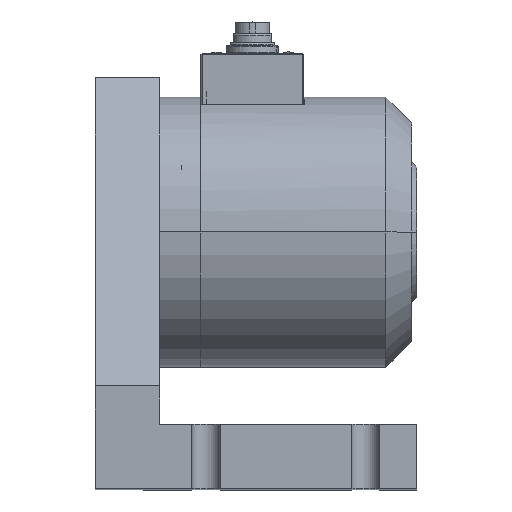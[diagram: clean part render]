
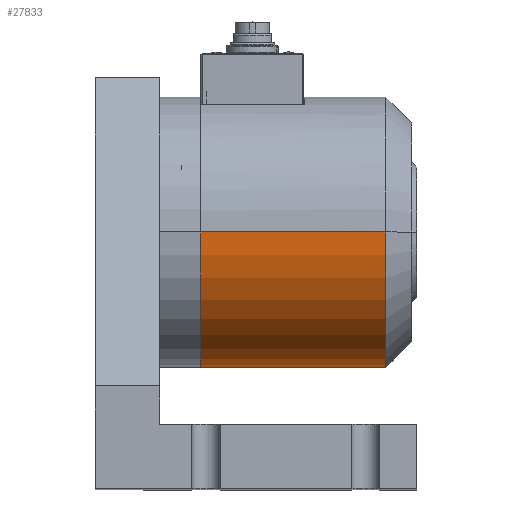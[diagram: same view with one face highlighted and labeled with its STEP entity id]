
A CAD part, top view. The second image highlights one B-rep face of the part: STEP entity #27833.
In plain terms, the highlighted cylindrical face has radius 52.5 mm (diameter 105 mm), a partial arc.
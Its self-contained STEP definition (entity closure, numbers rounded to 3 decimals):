
#976 = FACE_OUTER_BOUND ( 'NONE', #41190, .T. ) ;
#2433 = VERTEX_POINT ( 'NONE', #3382 ) ;
#3382 = CARTESIAN_POINT ( 'NONE',  ( 3.72, 66.739, 52.539 ) ) ;
#5197 = CIRCLE ( 'NONE', #12043, 52.5 ) ;
#5726 = ORIENTED_EDGE ( 'NONE', *, *, #39118, .F. ) ;
#5764 = CARTESIAN_POINT ( 'NONE',  ( 75.72, 66.739, 52.539 ) ) ;
#6685 = CARTESIAN_POINT ( 'NONE',  ( 85.72, 66.739, -52.461 ) ) ;
#8086 = EDGE_CURVE ( 'NONE', #2433, #38323, #18652, .T. ) ;
#12043 = AXIS2_PLACEMENT_3D ( 'NONE', #12473, #28400, #44548 ) ;
#12055 = VERTEX_POINT ( 'NONE', #5764 ) ;
#12473 = CARTESIAN_POINT ( 'NONE',  ( 75.72, 66.739, 0.039 ) ) ;
#12620 = CARTESIAN_POINT ( 'NONE',  ( 85.72, 66.739, 0.039 ) ) ;
#13367 = DIRECTION ( 'NONE',  ( -1., 0., 0. ) ) ;
#13595 = VECTOR ( 'NONE', #22787, 1000. ) ;
#16863 = LINE ( 'NONE', #32726, #32479 ) ;
#17329 = DIRECTION ( 'NONE',  ( 0., 0., -1. ) ) ;
#18652 = CIRCLE ( 'NONE', #36163, 52.5 ) ;
#22787 = DIRECTION ( 'NONE',  ( -1., 0., 0. ) ) ;
#27248 = EDGE_CURVE ( 'NONE', #27604, #12055, #5197, .T. ) ;
#27604 = VERTEX_POINT ( 'NONE', #33424 ) ;
#27833 = ADVANCED_FACE ( 'NONE', ( #976 ), #44691, .T. ) ;
#28400 = DIRECTION ( 'NONE',  ( -1., 0., 0. ) ) ;
#31082 = CARTESIAN_POINT ( 'NONE',  ( 3.72, 66.739, -52.461 ) ) ;
#32479 = VECTOR ( 'NONE', #48909, 1000. ) ;
#32726 = CARTESIAN_POINT ( 'NONE',  ( 85.72, 66.739, 52.539 ) ) ;
#33424 = CARTESIAN_POINT ( 'NONE',  ( 75.72, 66.739, -52.461 ) ) ;
#35531 = ORIENTED_EDGE ( 'NONE', *, *, #41050, .T. ) ;
#36163 = AXIS2_PLACEMENT_3D ( 'NONE', #37127, #37181, #17329 ) ;
#37127 = CARTESIAN_POINT ( 'NONE',  ( 3.72, 66.739, 0.039 ) ) ;
#37181 = DIRECTION ( 'NONE',  ( 1., 0., 0. ) ) ;
#38323 = VERTEX_POINT ( 'NONE', #31082 ) ;
#39118 = EDGE_CURVE ( 'NONE', #27604, #38323, #42747, .T. ) ;
#41050 = EDGE_CURVE ( 'NONE', #12055, #2433, #16863, .T. ) ;
#41190 = EDGE_LOOP ( 'NONE', ( #5726, #48472, #35531, #42705 ) ) ;
#41437 = AXIS2_PLACEMENT_3D ( 'NONE', #12620, #13367, #49345 ) ;
#42705 = ORIENTED_EDGE ( 'NONE', *, *, #8086, .T. ) ;
#42747 = LINE ( 'NONE', #6685, #13595 ) ;
#44548 = DIRECTION ( 'NONE',  ( 0., 0., -1. ) ) ;
#44691 = CYLINDRICAL_SURFACE ( 'NONE', #41437, 52.5 ) ;
#48472 = ORIENTED_EDGE ( 'NONE', *, *, #27248, .T. ) ;
#48909 = DIRECTION ( 'NONE',  ( -1., 0., 0. ) ) ;
#49345 = DIRECTION ( 'NONE',  ( 0., 0., 1. ) ) ;
